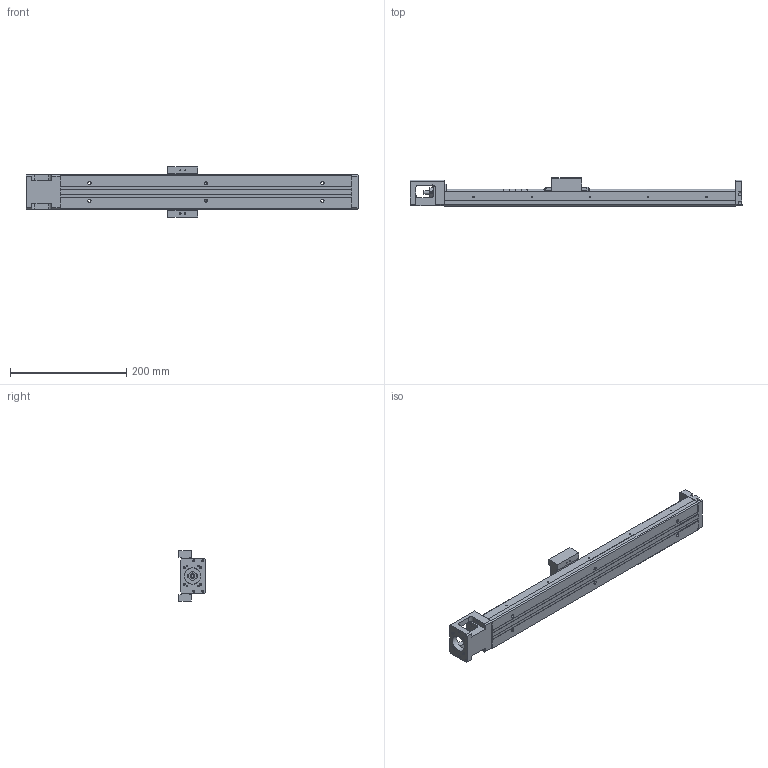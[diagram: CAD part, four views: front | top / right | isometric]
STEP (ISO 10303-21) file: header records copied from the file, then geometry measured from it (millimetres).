
FILE_DESCRIPTION(/* description */ (''),/* implementation_level */ '2;1');
FILE_NAME(/* name */ 'KP33N-500.stp',/* time_stamp */ '2019-02-25T15:05:27+08:00',/* author */ (''),/* organization */ (''),/* preprocessor_version */ 'ST-DEVELOPER v11',/* originating_system */ 'SIEMENS UGS NX 6.0',/* authorisation */ '');
FILE_SCHEMA (('CONFIG_CONTROL_DESIGN'));
Length unit declared in the file: millimetre
Products named in the file (1): darrFF5Egxb8
Bounding box: 570 x 47.95 x 86 mm (x, y, z)
Volume: 674246.4 mm3; surface area: 186845.4 mm2
Topology: 6 solids, 15 shells, 703 faces, 1759 edges, 1162 vertices
Faces by surface type: plane 418, cylinder 198, bspline 31, cone 24, extrusion 21, torus 9, revolution 2
Full cylindrical faces by diameter (mm): 1.6 x6, 1.65 x4, 2.15 x5, 2.42 x4, 2.45 x4, 2.5 x18, 3 x3, 3.2 x4, 3.3 x4, 3.4 x3, 3.5 x10, 3.969 x1, 4 x6, 4.001 x1, 4.135 x4, 4.2 x4, 5.5 x6, 6 x5, 7.6 x1, 8 x5, 9.5 x6, 10.72 x3, 11.8 x2, 12 x6, 12.8 x1, 13 x2, 14 x1, 17.38 x3, 21.5 x1, 22 x2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
Entity records: 32295 total; most frequent: CARTESIAN_POINT 16427, DIRECTION 3168, ORIENTED_EDGE 3042, EDGE_CURVE 1521, AXIS2_PLACEMENT_3D 1122, VERTEX_POINT 1085, EDGE_LOOP 998, VECTOR 922
